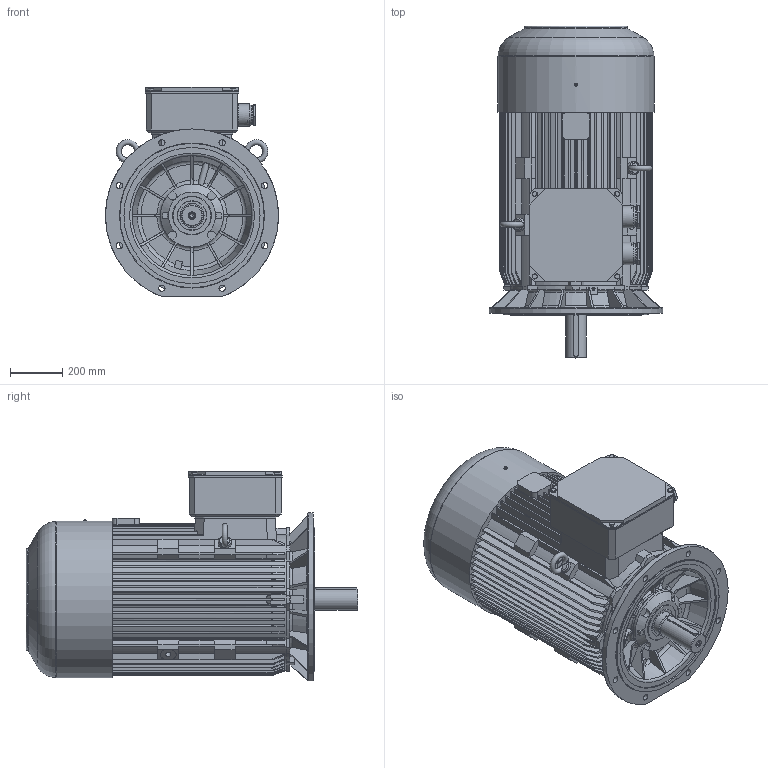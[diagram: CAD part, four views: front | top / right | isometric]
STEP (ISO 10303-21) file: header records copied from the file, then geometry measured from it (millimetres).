
FILE_DESCRIPTION( ( 'Unknown' ), '1' );
FILE_NAME( 'P:/3D_Bry³y silników skatalogowane/SIE/2SIE315/STP_2SIE315/2SIEK315_S_M_4AB_6A.stp', 'Unknown', ( 'Unknown' ), ( 'Unknown' ), 'XStep 1.0', 'Unknown', ' ' );
FILE_SCHEMA( ( 'CONFIG_CONTROL_DESIGN' ) );
Length unit declared in the file: millimetre
Products named in the file (3): 1; 2; 3
Bounding box: 660 x 1264.99 x 799.5 mm (x, y, z)
Volume: 270278669.2 mm3; surface area: 6592835.6 mm2
Topology: 3 solids, 18 shells, 1409 faces, 3792 edges, 2468 vertices
Faces by surface type: plane 841, cylinder 294, cone 151, torus 107, bspline 16
Full cylindrical faces by diameter (mm): 1.6 x2, 5 x4, 10.106 x4, 13.835 x1, 16.63 x4, 17.294 x1, 20 x1, 20.752 x2, 21 x1, 24 x8, 36 x1, 50 x2, 55 x2, 57 x4, 65 x4, 70 x2, 71 x6, 72 x2, 72.752 x2, 76 x2, 79.999 x1, 85 x2, 89.5 x1, 90 x1, 99.4 x1, 100 x1, 111.399 x1, 112 x1, 119.4 x1, 119.999 x1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
Entity records: 54455 total; most frequent: CARTESIAN_POINT 20118, ORIENTED_EDGE 7188, DIRECTION 6882, EDGE_CURVE 3594, AXIS2_PLACEMENT_3D 2436, VERTEX_POINT 2415, LINE 2010, VECTOR 2010
